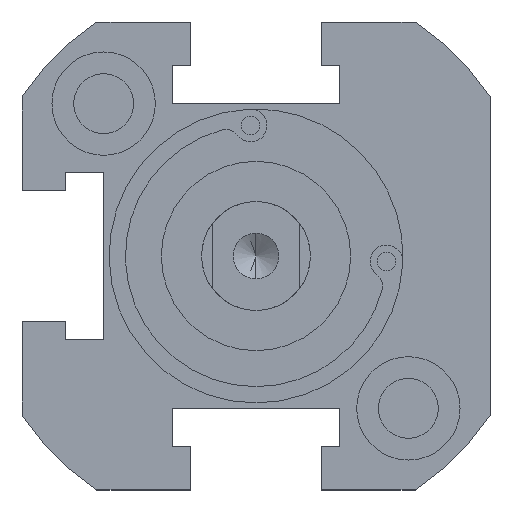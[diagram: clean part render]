
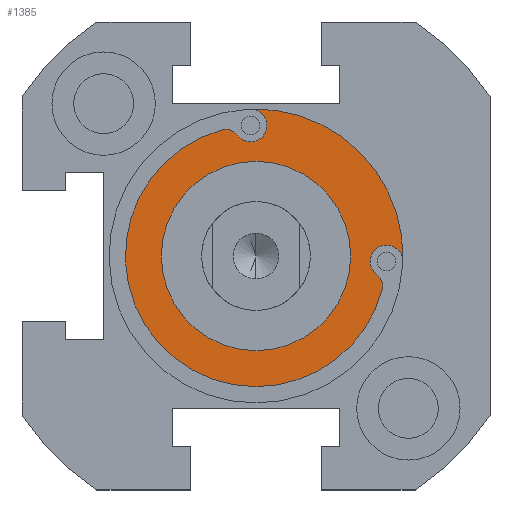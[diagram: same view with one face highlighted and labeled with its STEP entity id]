
A CAD part, front view. The second image highlights one B-rep face of the part: STEP entity #1385.
In plain terms, the highlighted planar face has unit normal (0, -1, 0) as drawn and (0, 1, 0) by its records, which use the part's own axes.
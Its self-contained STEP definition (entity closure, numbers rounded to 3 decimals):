
#11 = CIRCLE ( 'NONE', #2067, 1.5 ) ;
#58 = ORIENTED_EDGE ( 'NONE', *, *, #1145, .T. ) ;
#59 = DIRECTION ( 'NONE',  ( 0., 1., 0. ) ) ;
#99 = DIRECTION ( 'NONE',  ( 0., 0., 1. ) ) ;
#106 = CARTESIAN_POINT ( 'NONE',  ( 11.107, -2., 1.705 ) ) ;
#112 = CARTESIAN_POINT ( 'NONE',  ( 0., -2., 12. ) ) ;
#136 = EDGE_CURVE ( 'NONE', #872, #2117, #11, .T. ) ;
#155 = DIRECTION ( 'NONE',  ( 0., 0., 1. ) ) ;
#166 = CIRCLE ( 'NONE', #1423, 8.7 ) ;
#222 = DIRECTION ( 'NONE',  ( 0., 0., 1. ) ) ;
#246 = VERTEX_POINT ( 'NONE', #1773 ) ;
#251 = ORIENTED_EDGE ( 'NONE', *, *, #2064, .T. ) ;
#256 = DIRECTION ( 'NONE',  ( 0., 1., 0. ) ) ;
#272 = CIRCLE ( 'NONE', #1519, 13.5 ) ;
#281 = ORIENTED_EDGE ( 'NONE', *, *, #2924, .F. ) ;
#358 = VERTEX_POINT ( 'NONE', #2742 ) ;
#367 = CARTESIAN_POINT ( 'NONE',  ( -3.089, -2., -11.596 ) ) ;
#370 = CARTESIAN_POINT ( 'NONE',  ( 13.493, -2., 0.444 ) ) ;
#470 = EDGE_LOOP ( 'NONE', ( #736, #1892, #2488, #1698, #251, #2033, #58, #2763 ) ) ;
#527 = DIRECTION ( 'NONE',  ( 0., -1., 0. ) ) ;
#578 = AXIS2_PLACEMENT_3D ( 'NONE', #2901, #1786, #155 ) ;
#591 = CARTESIAN_POINT ( 'NONE',  ( 10.339, -2., 2.754 ) ) ;
#652 = DIRECTION ( 'NONE',  ( 0., 0., 1. ) ) ;
#674 = CIRCLE ( 'NONE', #2828, 12. ) ;
#703 = CIRCLE ( 'NONE', #781, 1.5 ) ;
#736 = ORIENTED_EDGE ( 'NONE', *, *, #2900, .F. ) ;
#760 = AXIS2_PLACEMENT_3D ( 'NONE', #591, #1988, #99 ) ;
#781 = AXIS2_PLACEMENT_3D ( 'NONE', #2311, #892, #222 ) ;
#802 = AXIS2_PLACEMENT_3D ( 'NONE', #2150, #256, #973 ) ;
#819 = DIRECTION ( 'NONE',  ( 0., 0., 1. ) ) ;
#831 = CARTESIAN_POINT ( 'NONE',  ( 0., -2., 8.7 ) ) ;
#872 = VERTEX_POINT ( 'NONE', #106 ) ;
#892 = DIRECTION ( 'NONE',  ( 0., 1., 0. ) ) ;
#896 = VERTEX_POINT ( 'NONE', #112 ) ;
#970 = VERTEX_POINT ( 'NONE', #367 ) ;
#973 = DIRECTION ( 'NONE',  ( 0., 0., 1. ) ) ;
#1027 = CARTESIAN_POINT ( 'NONE',  ( 11.994, -2., 0.495 ) ) ;
#1112 = PLANE ( 'NONE',  #2589 ) ;
#1127 = CIRCLE ( 'NONE', #1521, 1.5 ) ;
#1134 = CIRCLE ( 'NONE', #802, 1.3 ) ;
#1145 = EDGE_CURVE ( 'NONE', #2117, #1342, #272, .T. ) ;
#1166 = CIRCLE ( 'NONE', #1401, 8.7 ) ;
#1244 = ORIENTED_EDGE ( 'NONE', *, *, #2260, .F. ) ;
#1246 = CARTESIAN_POINT ( 'NONE',  ( 0., -2., 0. ) ) ;
#1314 = DIRECTION ( 'NONE',  ( 0., 1., 0. ) ) ;
#1342 = VERTEX_POINT ( 'NONE', #2497 ) ;
#1385 = ADVANCED_FACE ( 'NONE', ( #2145, #2116 ), #1112, .T. ) ;
#1401 = AXIS2_PLACEMENT_3D ( 'NONE', #1246, #59, #2825 ) ;
#1423 = AXIS2_PLACEMENT_3D ( 'NONE', #2264, #1528, #819 ) ;
#1455 = VERTEX_POINT ( 'NONE', #2286 ) ;
#1519 = AXIS2_PLACEMENT_3D ( 'NONE', #2551, #2354, #1635 ) ;
#1521 = AXIS2_PLACEMENT_3D ( 'NONE', #2246, #1314, #1990 ) ;
#1528 = DIRECTION ( 'NONE',  ( 0., 1., 0. ) ) ;
#1538 = EDGE_CURVE ( 'NONE', #246, #1342, #703, .T. ) ;
#1635 = DIRECTION ( 'NONE',  ( 0., 0., 1. ) ) ;
#1649 = EDGE_CURVE ( 'NONE', #970, #896, #674, .T. ) ;
#1698 = ORIENTED_EDGE ( 'NONE', *, *, #2943, .T. ) ;
#1736 = DIRECTION ( 'NONE',  ( 0., 0., 1. ) ) ;
#1746 = CIRCLE ( 'NONE', #760, 1.3 ) ;
#1770 = VERTEX_POINT ( 'NONE', #2635 ) ;
#1773 = CARTESIAN_POINT ( 'NONE',  ( -0.495, -2., -10.494 ) ) ;
#1786 = DIRECTION ( 'NONE',  ( 0., 1., 0. ) ) ;
#1874 = DIRECTION ( 'NONE',  ( 0., 0., 1. ) ) ;
#1892 = ORIENTED_EDGE ( 'NONE', *, *, #2575, .T. ) ;
#1988 = DIRECTION ( 'NONE',  ( 0., 1., 0. ) ) ;
#1990 = DIRECTION ( 'NONE',  ( 0., 0., 1. ) ) ;
#2033 = ORIENTED_EDGE ( 'NONE', *, *, #136, .T. ) ;
#2064 = EDGE_CURVE ( 'NONE', #1770, #872, #1746, .T. ) ;
#2067 = AXIS2_PLACEMENT_3D ( 'NONE', #1027, #527, #1736 ) ;
#2116 = FACE_BOUND ( 'NONE', #2973, .T. ) ;
#2117 = VERTEX_POINT ( 'NONE', #370 ) ;
#2145 = FACE_OUTER_BOUND ( 'NONE', #470, .T. ) ;
#2150 = CARTESIAN_POINT ( 'NONE',  ( -2.754, -2., -10.339 ) ) ;
#2246 = CARTESIAN_POINT ( 'NONE',  ( -0.495, -2., -11.994 ) ) ;
#2260 = EDGE_CURVE ( 'NONE', #1455, #2806, #1166, .T. ) ;
#2264 = CARTESIAN_POINT ( 'NONE',  ( 0., -2., 0. ) ) ;
#2286 = CARTESIAN_POINT ( 'NONE',  ( 0., -2., -8.7 ) ) ;
#2311 = CARTESIAN_POINT ( 'NONE',  ( -0.495, -2., -11.994 ) ) ;
#2336 = DIRECTION ( 'NONE',  ( 0., 1., 0. ) ) ;
#2354 = DIRECTION ( 'NONE',  ( 0., 1., 0. ) ) ;
#2488 = ORIENTED_EDGE ( 'NONE', *, *, #1649, .T. ) ;
#2492 = DIRECTION ( 'NONE',  ( 0., 1., 0. ) ) ;
#2497 = CARTESIAN_POINT ( 'NONE',  ( -0.444, -2., -13.493 ) ) ;
#2551 = CARTESIAN_POINT ( 'NONE',  ( 0., -2., 0. ) ) ;
#2575 = EDGE_CURVE ( 'NONE', #358, #970, #1134, .T. ) ;
#2589 = AXIS2_PLACEMENT_3D ( 'NONE', #2730, #2492, #652 ) ;
#2635 = CARTESIAN_POINT ( 'NONE',  ( 11.596, -2., 3.089 ) ) ;
#2730 = CARTESIAN_POINT ( 'NONE',  ( 0., -2., 0. ) ) ;
#2742 = CARTESIAN_POINT ( 'NONE',  ( -1.705, -2., -11.107 ) ) ;
#2763 = ORIENTED_EDGE ( 'NONE', *, *, #1538, .F. ) ;
#2806 = VERTEX_POINT ( 'NONE', #831 ) ;
#2825 = DIRECTION ( 'NONE',  ( 0., 0., 1. ) ) ;
#2828 = AXIS2_PLACEMENT_3D ( 'NONE', #2843, #2336, #1874 ) ;
#2843 = CARTESIAN_POINT ( 'NONE',  ( 0., -2., 0. ) ) ;
#2875 = CIRCLE ( 'NONE', #578, 12. ) ;
#2900 = EDGE_CURVE ( 'NONE', #358, #246, #1127, .T. ) ;
#2901 = CARTESIAN_POINT ( 'NONE',  ( 0., -2., 0. ) ) ;
#2924 = EDGE_CURVE ( 'NONE', #2806, #1455, #166, .T. ) ;
#2943 = EDGE_CURVE ( 'NONE', #896, #1770, #2875, .T. ) ;
#2973 = EDGE_LOOP ( 'NONE', ( #281, #1244 ) ) ;
